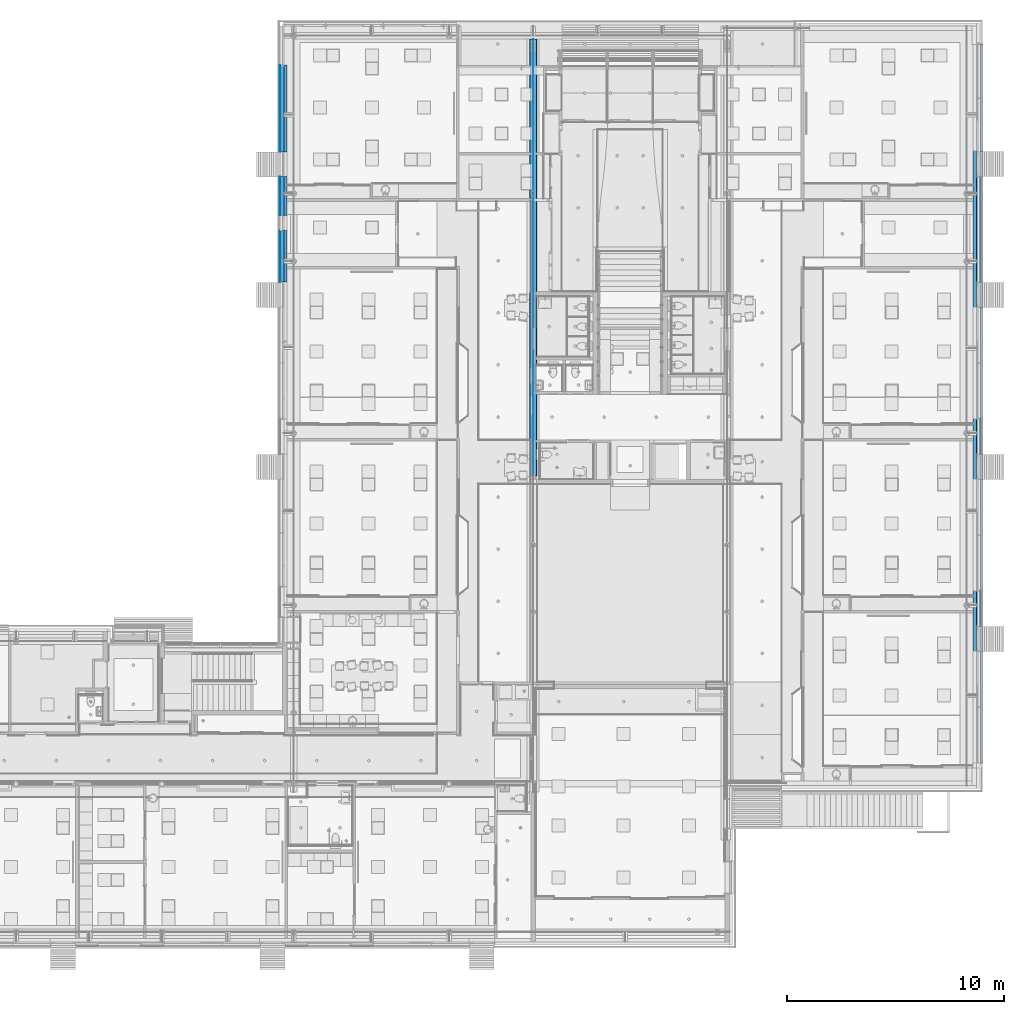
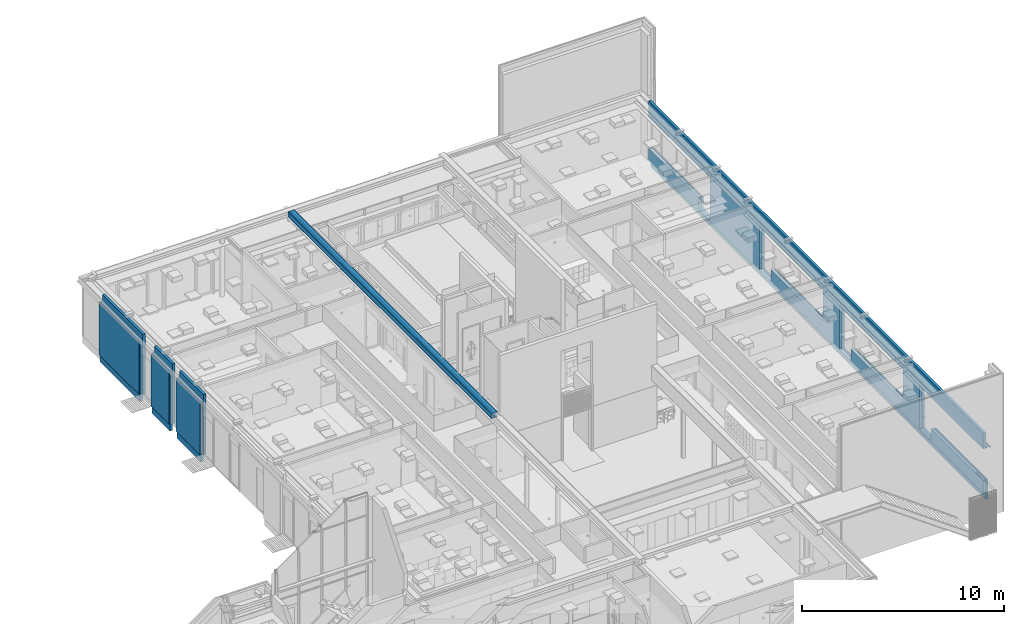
# One storey, part 122 of 347: 16 building element parts, 8 openings, 5 elements without a shape of their own.
"""IFC2X3 building model written with IfcOpenShell, lengths in millimetres."""

from ifc_helpers import new_model, entity, si_unit, converted_unit, derived_unit, money_unit, direction, frame, origin_with_axes, place, context, subcontext, project, spatial, faceted_brep, material, type_object, element, aggregate, save


model = new_model("IFC2X3")

# Units and contexts
model_context = context("Model", 3, precision=0.01, world=origin_with_axes(), true_north=direction((0.0, 1.0)))
plan_context = context("Plan", 3, precision=0.01, world=origin_with_axes(), true_north=direction((0.0, 1.0)))
body_context = subcontext(model_context, "Body", "Model", "MODEL_VIEW")
ifc_project = project(units=[si_unit("LENGTHUNIT", "METRE", prefix="MILLI"), si_unit("AREAUNIT", "SQUARE_METRE"), si_unit("VOLUMEUNIT", "CUBIC_METRE"), converted_unit("PLANEANGLEUNIT", "DEGREE", entity("IfcPlaneAngleMeasure", 0.0174532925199), si_unit("PLANEANGLEUNIT", "RADIAN"), dimensions=[0, 0, 0, 0, 0, 0, 0]), money_unit("EUR"), converted_unit("TIMEUNIT", "Year", entity("IfcTimeMeasure", 31556926.0), si_unit("TIMEUNIT", "SECOND"), dimensions=[0, 0, 1, 0, 0, 0, 0]), si_unit("MASSUNIT", "GRAM", prefix="KILO"), si_unit("THERMODYNAMICTEMPERATUREUNIT", "DEGREE_CELSIUS"), si_unit("LUMINOUSINTENSITYUNIT", "LUMEN"), si_unit("ENERGYUNIT", "JOULE", prefix="MEGA"), derived_unit("THERMALCONDUCTANCEUNIT", [(si_unit("POWERUNIT", "WATT"), 1), (si_unit("LENGTHUNIT", "METRE"), -1), (si_unit("THERMODYNAMICTEMPERATUREUNIT", "KELVIN"), -1)]), derived_unit("SPECIFICHEATCAPACITYUNIT", [(si_unit("ENERGYUNIT", "JOULE"), 1), (si_unit("MASSUNIT", "GRAM", prefix="KILO"), -1), (si_unit("THERMODYNAMICTEMPERATUREUNIT", "KELVIN"), -1)]), derived_unit("MASSDENSITYUNIT", [(si_unit("MASSUNIT", "GRAM", prefix="KILO"), 1), (si_unit("VOLUMEUNIT", "CUBIC_METRE"), -1)])], contexts=[model_context, plan_context])

# Site, building, storey
site_placement = place(None, origin_with_axes())
site = spatial("IfcSite", under=ifc_project, at=site_placement, Name="Site", CompositionType="ELEMENT")
building_placement = place(site_placement, origin_with_axes())
building = spatial("IfcBuilding", under=site, at=building_placement, Name="Naam gebouw", CompositionType="ELEMENT")
storey_placement = place(building_placement, origin_with_axes())
storey = spatial("IfcBuildingStorey", under=building, at=storey_placement, Name="begane grond", CompositionType="ELEMENT", Elevation=0.0)

# Beam, building element parts
beam_type = type_object("IfcBeamType", Name="28 SFBHE320B/S355 550 x 340", PredefinedType="BEAM")
beam_placement = place(storey_placement, frame((35605.0, 46436.9999776, 3560.0), z_axis=(0.0, 0.0, 1.0), x_axis=(-1.0, 0.0, 0.0)))
beam = element("IfcBeam", 1, at=beam_placement, inside=storey, type_object=beam_type, Name="28_Balk-x", ObjectType="BEAM")
ifc_material_1 = material(Name="Beton gewapend C vloer")
building_element_part_1_placement = place(beam_placement, origin_with_axes())
building_element_part_1 = element("IfcBuildingElementPart", 2, at=building_element_part_1_placement, material=ifc_material_1, Name="Beton gewapend C vloer", context=body_context, shape_type="Brep", body=[
    faceted_brep([(-170.0, 20117.0000104, 0.0), (-150.000002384, 20117.0000104, 0.0), (-150.000002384, 0.0, 0.0), (-170.0, 0.0, 0.0), (-170.0, 20117.0000104, 320.000002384), (-150.000002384, 20117.0000104, 320.000002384), (-150.000002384, 20117.0000104, 299.500001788), (-5.74999880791, 20117.0000104, 299.500001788), (-5.74999880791, 20117.0000104, 20.500000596), (-150.000002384, 20117.0000104, 20.500000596), (-150.000002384, 0.0, 20.500000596), (-5.74999880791, 0.0, 20.500000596), (-5.74999880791, 0.0, 299.500001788), (-150.000002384, 0.0, 299.500001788), (-150.000002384, 0.0, 320.000002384), (-170.0, 0.0, 320.000002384)], [[[0, 1, 2, 3]], [[0, 4, 5, 6, 7, 8, 9, 1]], [[1, 9, 10, 2]], [[3, 2, 10, 11, 12, 13, 14, 15]], [[4, 0, 3, 15]], [[5, 4, 15, 14]], [[6, 5, 14, 13]], [[7, 6, 13, 12]], [[8, 7, 12, 11]], [[9, 8, 11, 10]]]),
    faceted_brep([(5.7499988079, 20117.0000104, 299.500001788), (5.7499988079, 20117.0000104, 20.500000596), (5.74999880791, 0.0, 20.500000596), (5.74999880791, 0.0, 299.500001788), (150.000002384, 20117.0000104, 299.500001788), (150.000002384, 20117.0000104, 320.000002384), (170.0, 20117.0000104, 320.000002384), (170.0, 20117.0000104, 0.0), (150.000002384, 20117.0000104, 0.0), (150.000002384, 20117.0000104, 20.500000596), (150.000002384, 0.0, 20.500000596), (150.000002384, 0.0, 0.0), (170.0, 0.0, 0.0), (170.0, 0.0, 320.000002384), (150.000002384, 0.0, 320.000002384), (150.000002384, 0.0, 299.500001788)], [[[0, 1, 2, 3]], [[0, 4, 5, 6, 7, 8, 9, 1]], [[1, 9, 10, 2]], [[3, 2, 10, 11, 12, 13, 14, 15]], [[4, 0, 3, 15]], [[5, 4, 15, 14]], [[6, 5, 14, 13]], [[7, 6, 13, 12]], [[8, 7, 12, 11]], [[9, 8, 11, 10]]]),
])
ifc_material_2 = material(Name="Metaal - Staal C")
building_element_part_2_placement = place(beam_placement, origin_with_axes())
building_element_part_2 = element("IfcBuildingElementPart", 3, at=building_element_part_2_placement, material=ifc_material_2, Name="Metaal - Staal C", context=body_context, shape_type="Brep", body=[
    faceted_brep([(-150.0, 20117.0000104, 0.0), (150.0, 20117.0000104, 0.0), (150.0, 0.0, 0.0), (-150.0, 0.0, 0.0), (-150.0, 20117.0000104, 20.5), (150.0, 20117.0000104, 20.5), (150.0, 0.0, 20.5), (-150.0, 0.0, 20.5)], [[[0, 1, 2, 3]], [[0, 4, 5, 1]], [[1, 5, 6, 2]], [[3, 2, 6, 7]], [[4, 0, 3, 7]], [[5, 4, 7, 6]]]),
])
building_element_part_3_placement = place(beam_placement, origin_with_axes())
building_element_part_3 = element("IfcBuildingElementPart", 4, at=building_element_part_3_placement, material=ifc_material_2, Name="Metaal - Staal C", context=body_context, shape_type="Brep", body=[
    faceted_brep([(-5.75, 20117.0000104, 299.5), (-5.75, 20117.0000104, 20.5), (-5.75, 0.0, 20.5), (-5.75, 0.0, 299.5), (5.75, 20117.0000104, 299.5), (5.75, 20117.0000104, 20.5), (5.75, 0.0, 20.5), (5.75, 0.0, 299.5)], [[[0, 1, 2, 3]], [[0, 4, 5, 1]], [[1, 5, 6, 2]], [[3, 2, 6, 7]], [[4, 0, 3, 7]], [[5, 4, 7, 6]]]),
])
building_element_part_4_placement = place(beam_placement, origin_with_axes())
building_element_part_4 = element("IfcBuildingElementPart", 5, at=building_element_part_4_placement, material=ifc_material_2, Name="Metaal - Staal C", context=body_context, shape_type="Brep", body=[
    faceted_brep([(-150.0, 20117.0000104, 320.0), (-150.0, 20117.0000104, 299.5), (-150.0, 0.0, 299.5), (-150.0, 0.0, 320.0), (150.0, 20117.0000104, 320.0), (150.0, 20117.0000104, 299.5), (150.0, 0.0, 299.5), (150.0, 0.0, 320.0)], [[[0, 1, 2, 3]], [[0, 4, 5, 1]], [[1, 5, 6, 2]], [[3, 2, 6, 7]], [[4, 0, 3, 7]], [[5, 4, 7, 6]]]),
])
aggregate(beam, [building_element_part_1, building_element_part_2, building_element_part_3, building_element_part_4])

# Wall, building element parts
wall_type_1 = type_object("IfcWallType", Name="22 beg hout (3200+) 350 x 4010", PredefinedType="NOTDEFINED")
wall_1_placement = place(storey_placement, frame((24275.0, 40097.0000187, 0.0), z_axis=(0.0, 0.0, 1.0), x_axis=(0.0, -1.0, 0.0)))
wall_1 = element("IfcWall", 6, at=wall_1_placement, inside=storey, type_object=wall_type_1, Name="21_21 betonwand")
ifc_material_3 = material(Name="Steen - Kalkzandsteen C")
building_element_part_5_placement = place(wall_1_placement, origin_with_axes())
building_element_part_5 = element("IfcBuildingElementPart", 7, at=building_element_part_5_placement, material=ifc_material_3, Name="Steen - Kalkzandsteen C", context=body_context, shape_type="Brep", body=[
    faceted_brep([(1784.50001866, 8.1956450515e-06, -70.0), (0.0, 8.1956450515e-06, -70.0), (0.0, 8.1956450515e-06, 3560.0), (1784.50001866, 8.1956450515e-06, 3560.0), (0.0, -150.0, -70.0), (1784.50001866, -150.0, -70.0), (0.0, -149.999977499, 3200.00001043), (0.0, -149.999977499, 3560.0), (1784.50001866, -149.999977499, 3560.0), (1784.50001866, -149.999977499, 3200.00001043)], [[[0, 1, 2, 3]], [[4, 1, 0, 5]], [[1, 4, 6, 7, 2]], [[2, 7, 8, 3]], [[5, 0, 3, 8, 9]], [[4, 5, 9, 6]], [[7, 6, 9, 8]]]),
])
ifc_material_4 = material(Name="Isolatie - Kunststof hard")
building_element_part_6_placement = place(wall_1_placement, origin_with_axes())
building_element_part_6 = element("IfcBuildingElementPart", 8, at=building_element_part_6_placement, material=ifc_material_4, Name="Isolatie - Kunststof hard", context=body_context, shape_type="Brep", body=[
    faceted_brep([(0.0, -290.0, -450.0), (1784.50001866, -290.0, -450.0), (1784.50001866, -290.000000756, -3.65078798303e-05), (0.0, -290.000000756, -3.65078798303e-05), (0.0, -150.0, -450.0), (1784.50001866, -150.0, -450.0), (1784.50001866, -149.999977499, -79.999987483), (1784.50001866, -150.0, 3200.0), (1784.50001866, -290.0, 3200.0), (0.0, -290.0, 3200.0), (0.0, -150.0, 3200.0), (0.0, -149.999977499, -79.999987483)], [[[0, 1, 2, 3]], [[4, 5, 1, 0]], [[2, 1, 5, 6, 7, 8]], [[3, 2, 8, 9]], [[4, 0, 3, 9, 10, 11]], [[11, 6, 5, 4]], [[10, 7, 6, 11]], [[9, 8, 7, 10]]]),
])
ifc_material_5 = material(Name="24 Hout gevelbekleding Lariks")
building_element_part_7_placement = place(wall_1_placement, origin_with_axes())
building_element_part_7 = element("IfcBuildingElementPart", 9, at=building_element_part_7_placement, material=ifc_material_5, Name="24 Hout gevelbekleding Lariks", context=body_context, shape_type="Brep", body=[
    faceted_brep([(1784.50001866, -349.999974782, 3200.0), (1784.50001866, -325.0, 3200.0), (0.0, -325.0, 3200.0), (0.0, -349.999974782, 3200.0), (1784.50001866, -349.999974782, -1.31956885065e-05), (1784.50001866, -325.0, -1.31956885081e-05), (0.0, -325.0, -1.31956885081e-05), (0.0, -349.999974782, -1.31956885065e-05)], [[[0, 1, 2, 3]], [[0, 4, 5, 1]], [[1, 5, 6, 2]], [[3, 2, 6, 7]], [[4, 0, 3, 7]], [[5, 4, 7, 6]]]),
])
aggregate(wall_1, [building_element_part_5, building_element_part_6, building_element_part_7])

wall_2_placement = place(storey_placement, frame((24275.0, 37612.5, 0.0), z_axis=(0.0, 0.0, 1.0), x_axis=(0.0, -1.0, 0.0)))
wall_2 = element("IfcWall", 10, at=wall_2_placement, inside=storey, type_object=wall_type_1, Name="21_21 betonwand")
building_element_part_8_placement = place(wall_2_placement, origin_with_axes())
building_element_part_8 = element("IfcBuildingElementPart", 11, at=building_element_part_8_placement, material=ifc_material_3, Name="Steen - Kalkzandsteen C", context=body_context, shape_type="Brep", body=[
    faceted_brep([(2375.0, 8.1956450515e-06, -70.0), (0.0, 8.1956450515e-06, -70.0), (0.0, 8.1956450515e-06, 3560.0), (2375.0, 8.1956450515e-06, 3560.0), (0.0, -150.0, -70.0), (2375.0, -150.0, -70.0), (0.0, -149.999977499, 3200.00001043), (0.0, -149.999977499, 3560.0), (2375.0, -149.999977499, 3560.0), (2375.0, -149.999977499, 3200.00001043)], [[[0, 1, 2, 3]], [[4, 1, 0, 5]], [[1, 4, 6, 7, 2]], [[2, 7, 8, 3]], [[5, 0, 3, 8, 9]], [[4, 5, 9, 6]], [[7, 6, 9, 8]]]),
])
building_element_part_9_placement = place(wall_2_placement, origin_with_axes())
building_element_part_9 = element("IfcBuildingElementPart", 12, at=building_element_part_9_placement, material=ifc_material_4, Name="Isolatie - Kunststof hard", context=body_context, shape_type="Brep", body=[
    faceted_brep([(2350.0, -211.999873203, 3200.0), (2375.0, -211.999873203, 3200.0), (2375.0, -150.0, 3200.0), (0.0, -150.0, 3200.0), (0.0, -290.0, 3200.0), (2350.0, -290.0, 3200.0), (2350.0, -211.999873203, 0.0), (2375.0, -211.999873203, 0.0), (2375.0, -290.000000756, 0.0), (2375.0, -290.0, -450.0), (2375.0, -150.0, -450.0), (2375.0, -149.999977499, -79.999987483), (0.0, -149.999977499, -79.999987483), (0.0, -150.0, -450.0), (0.0, -290.0, -450.0), (0.0, -290.000000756, -3.65078798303e-05), (2350.0, -290.000000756, 0.0)], [[[0, 1, 2, 3, 4, 5]], [[1, 0, 6, 7]], [[7, 8, 9, 10, 11, 2, 1]], [[3, 2, 11, 12]], [[13, 14, 15, 4, 3, 12]], [[16, 5, 4, 15]], [[0, 5, 16, 6]], [[8, 7, 6, 16]], [[8, 16, 15, 14, 9]], [[13, 10, 9, 14]], [[12, 11, 10, 13]]]),
])
building_element_part_10_placement = place(wall_2_placement, origin_with_axes())
building_element_part_10 = element("IfcBuildingElementPart", 13, at=building_element_part_10_placement, material=ifc_material_5, Name="24 Hout gevelbekleding Lariks", context=body_context, shape_type="Brep", body=[
    faceted_brep([(0.0, -349.999974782, 3200.0), (2375.0, -349.999974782, 3200.0), (2375.0, -325.0, 3200.0), (0.0, -325.0, 3200.0), (0.0, -349.999974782, -1.31956885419e-05), (2375.0, -349.999974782, -1.31956885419e-05), (2375.0, -325.0, -1.31956885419e-05), (0.0, -325.0, -1.31956885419e-05)], [[[0, 1, 2, 3]], [[4, 5, 1, 0]], [[2, 1, 5, 6]], [[3, 2, 6, 7]], [[4, 0, 3, 7]], [[7, 6, 5, 4]]]),
])
aggregate(wall_2, [building_element_part_8, building_element_part_9, building_element_part_10])

wall_3_placement = place(storey_placement, frame((24275.0, 45235.0, 0.0), z_axis=(0.0, 0.0, 1.0), x_axis=(0.0, -1.0, 0.0)))
wall_3 = element("IfcWall", 14, at=wall_3_placement, inside=storey, type_object=wall_type_1, Name="21_21 betonwand")
building_element_part_11_placement = place(wall_3_placement, origin_with_axes())
building_element_part_11 = element("IfcBuildingElementPart", 15, at=building_element_part_11_placement, material=ifc_material_3, Name="Steen - Kalkzandsteen C", context=body_context, shape_type="Brep", body=[
    faceted_brep([(3987.99998134, 8.1956450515e-06, -70.0), (0.0, 8.1956450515e-06, -70.0), (0.0, 8.1956450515e-06, 3560.0), (3987.99998134, 8.1956450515e-06, 3560.0), (0.0, -150.0, -70.0), (3987.99998134, -150.0, -70.0), (0.0, -149.999977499, 3200.00001043), (0.0, -149.999977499, 3560.0), (3987.99998134, -149.999977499, 3560.0), (3987.99998134, -149.999977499, 3200.00001043)], [[[0, 1, 2, 3]], [[4, 1, 0, 5]], [[1, 4, 6, 7, 2]], [[7, 8, 3, 2]], [[5, 0, 3, 8, 9]], [[4, 5, 9, 6]], [[6, 9, 8, 7]]]),
])
building_element_part_12_placement = place(wall_3_placement, origin_with_axes())
building_element_part_12 = element("IfcBuildingElementPart", 16, at=building_element_part_12_placement, material=ifc_material_4, Name="Isolatie - Kunststof hard", context=body_context, shape_type="Brep", body=[
    faceted_brep([(0.0, -290.0, -450.0), (3987.99998134, -290.0, -450.0), (3987.99998134, -290.000000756, -3.65078798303e-05), (0.0, -290.000000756, -3.65078798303e-05), (0.0, -150.0, -450.0), (3987.99998134, -150.0, -450.0), (3987.99998134, -149.999977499, -79.999987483), (3987.99998134, -150.0, 3200.0), (3987.99998134, -290.0, 3200.0), (0.0, -290.0, 3200.0), (0.0, -150.0, 3200.0), (0.0, -149.999977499, -79.999987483)], [[[0, 1, 2, 3]], [[4, 5, 1, 0]], [[2, 1, 5, 6, 7, 8]], [[3, 2, 8, 9]], [[4, 0, 3, 9, 10, 11]], [[11, 6, 5, 4]], [[10, 7, 6, 11]], [[9, 8, 7, 10]]]),
])
building_element_part_13_placement = place(wall_3_placement, origin_with_axes())
building_element_part_13 = element("IfcBuildingElementPart", 17, at=building_element_part_13_placement, material=ifc_material_5, Name="24 Hout gevelbekleding Lariks", context=body_context, shape_type="Brep", body=[
    faceted_brep([(3987.99998134, -349.999974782, 3200.0), (3987.99998134, -325.0, 3200.0), (0.0, -325.0, 3200.0), (0.0, -349.999974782, 3200.0), (3987.99998134, -349.999974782, -1.31956885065e-05), (3987.99998134, -325.0, -1.31956885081e-05), (0.0, -325.0, -1.31956885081e-05), (0.0, -349.999974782, -1.31956885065e-05)], [[[0, 1, 2, 3]], [[0, 4, 5, 1]], [[1, 5, 6, 2]], [[3, 2, 6, 7]], [[4, 0, 3, 7]], [[5, 4, 7, 6]]]),
])
aggregate(wall_3, [building_element_part_11, building_element_part_12, building_element_part_13])

# Wall, openings, building element parts
wall_type_2 = type_object("IfcWallType", Name="22 beg hout (2600+) borstwering' 430 x 4390", PredefinedType="NOTDEFINED")
wall_4_placement = place(storey_placement, frame((55875.0000543, 13087.5, 0.0), z_axis=(0.0, 0.0, 1.0), x_axis=(0.0, 1.0, 0.0)))
wall_4 = element("IfcWall", 18, at=wall_4_placement, inside=storey, type_object=wall_type_2, Name="21_21 betonwand")
opening_1_placement = place(wall_4_placement, frame((18425.0, -1.32445165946e-08, 700.0), z_axis=(0.0, 0.0, 1.0), x_axis=(1.0, 0.0, 0.0)))
element("IfcOpeningElement", 19, at=opening_1_placement, cuts=wall_4, Name="31_-", context=body_context, shape_type="Brep", body=[
    faceted_brep([(2575.0, -860.000161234, 1900.0), (2575.0, -860.000161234, 0.0), (2575.0, -302.000081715, 0.0), (2575.0, -302.000081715, 1900.0), (-2575.0, -860.000161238, 1900.0), (-2575.0, -860.000161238, 0.0), (-2575.0, -302.000081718, 0.0), (-2575.0, -302.000081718, 1900.0)], [[[0, 1, 2, 3]], [[0, 4, 5, 1]], [[1, 5, 6, 2]], [[3, 2, 6, 7]], [[4, 0, 3, 7]], [[5, 4, 7, 6]]]),
    faceted_brep([(2575.0, 255.999997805, 0.0), (2575.0, 255.999997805, 1900.0), (2575.0, -302.000081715, 1900.0), (2575.0, -302.000081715, 0.0), (-2575.0, 255.999997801, 0.0), (-2575.0, 255.999997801, 1900.0), (-2575.0, -302.000081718, 1900.0), (-2575.0, -302.000081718, 0.0)], [[[0, 1, 2, 3]], [[0, 4, 5, 1]], [[1, 5, 6, 2]], [[3, 2, 6, 7]], [[4, 0, 3, 7]], [[5, 4, 7, 6]]]),
])
opening_2_placement = place(wall_4_placement, frame((21561.5, -1.55040424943e-08, 0.0), z_axis=(0.0, 0.0, 1.0), x_axis=(1.0, 0.0, 0.0)))
element("IfcOpeningElement", 20, at=opening_2_placement, cuts=wall_4, Name="31_-", context=body_context, shape_type="Brep", body=[
    faceted_brep([(588.500000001, -860.000161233, 2600.0), (588.500000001, -860.000161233, 0.0), (588.5, -302.000081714, 0.0), (588.5, -302.000081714, 2600.0), (-588.499999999, -860.000161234, 2600.0), (-588.499999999, -860.000161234, 0.0), (-588.5, -302.000081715, 0.0), (-588.5, -302.000081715, 2600.0)], [[[0, 1, 2, 3]], [[0, 4, 5, 1]], [[1, 5, 6, 2]], [[3, 2, 6, 7]], [[4, 0, 3, 7]], [[5, 4, 7, 6]]]),
    faceted_brep([(588.5, 255.999997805, 0.0), (588.5, 255.999997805, 2600.0), (588.5, -302.000081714, 2600.0), (588.5, -302.000081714, 0.0), (-588.5, 255.999997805, 0.0), (-588.5, 255.999997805, 2600.0), (-588.5, -302.000081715, 2600.0), (-588.5, -302.000081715, 0.0)], [[[0, 1, 2, 3]], [[0, 4, 5, 1]], [[1, 5, 6, 2]], [[3, 2, 6, 7]], [[4, 0, 3, 7]], [[5, 4, 7, 6]]]),
])
opening_3_placement = place(wall_4_placement, frame((2575.0, -1.85451654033e-09, 700.0), z_axis=(0.0, 0.0, 1.0), x_axis=(1.0, 0.0, 0.0)))
element("IfcOpeningElement", 21, at=opening_3_placement, cuts=wall_4, Name="31_-", context=body_context, shape_type="Brep", body=[
    faceted_brep([(2575.0, -860.000161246, 1900.0), (2575.0, -860.000161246, 0.0), (2575.0, -302.000081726, 0.0), (2575.0, -302.000081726, 1900.0), (-2575.0, -860.000161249, 1900.0), (-2575.0, -860.000161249, 0.0), (-2575.0, -302.00008173, 0.0), (-2575.0, -302.00008173, 1900.0)], [[[0, 1, 2, 3]], [[0, 4, 5, 1]], [[1, 5, 6, 2]], [[3, 2, 6, 7]], [[4, 0, 3, 7]], [[5, 4, 7, 6]]]),
    faceted_brep([(2575.0, 255.999997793, 0.0), (2575.0, 255.999997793, 1900.0), (2575.0, -302.000081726, 1900.0), (2575.0, -302.000081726, 0.0), (-2575.0, 255.99999779, 0.0), (-2575.0, 255.99999779, 1900.0), (-2575.0, -302.00008173, 1900.0), (-2575.0, -302.00008173, 0.0)], [[[0, 1, 2, 3]], [[0, 4, 5, 1]], [[1, 5, 6, 2]], [[3, 2, 6, 7]], [[4, 0, 3, 7]], [[5, 4, 7, 6]]]),
])
opening_4_placement = place(wall_4_placement, frame((5725.0, -4.11404244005e-09, 0.0), z_axis=(0.0, 0.0, 1.0), x_axis=(1.0, 0.0, 0.0)))
element("IfcOpeningElement", 22, at=opening_4_placement, cuts=wall_4, Name="31_-", context=body_context, shape_type="Brep", body=[
    faceted_brep([(575.000000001, -860.000161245, 2600.0), (575.000000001, -860.000161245, 0.0), (575.0, -302.000081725, 0.0), (575.0, -302.000081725, 2600.0), (-574.999999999, -860.000161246, 2600.0), (-574.999999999, -860.000161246, 0.0), (-575.0, -302.000081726, 0.0), (-575.0, -302.000081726, 2600.0)], [[[0, 1, 2, 3]], [[0, 4, 5, 1]], [[1, 5, 6, 2]], [[3, 2, 6, 7]], [[4, 0, 3, 7]], [[5, 4, 7, 6]]]),
    faceted_brep([(575.0, 255.999997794, 0.0), (575.0, 255.999997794, 2600.0), (575.0, -302.000081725, 2600.0), (575.0, -302.000081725, 0.0), (-575.0, 255.999997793, 0.0), (-575.0, 255.999997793, 2600.0), (-575.0, -302.000081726, 2600.0), (-575.0, -302.000081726, 0.0)], [[[0, 1, 2, 3]], [[0, 4, 5, 1]], [[1, 5, 6, 2]], [[3, 2, 6, 7]], [[4, 0, 3, 7]], [[5, 4, 7, 6]]]),
])
opening_5_placement = place(wall_4_placement, frame((10500.0000001, -7.54596385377e-09, 700.0), z_axis=(0.0, 0.0, 1.0), x_axis=(1.0, 0.0, 0.0)))
element("IfcOpeningElement", 23, at=opening_5_placement, cuts=wall_4, Name="31_-", context=body_context, shape_type="Brep", body=[
    faceted_brep([(2574.99999985, -860.00016124, 1900.0), (2574.99999985, -860.00016124, 0.0), (2574.99999985, -302.00008172, 0.0), (2574.99999985, -302.00008172, 1900.0), (-2574.99999985, -860.000161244, 1900.0), (-2574.99999985, -860.000161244, 0.0), (-2574.99999985, -302.000081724, 0.0), (-2574.99999985, -302.000081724, 1900.0)], [[[0, 1, 2, 3]], [[0, 4, 5, 1]], [[1, 5, 6, 2]], [[3, 2, 6, 7]], [[4, 0, 3, 7]], [[5, 4, 7, 6]]]),
    faceted_brep([(2574.99999985, 255.999997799, 0.0), (2574.99999985, 255.999997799, 1900.0), (2574.99999985, -302.00008172, 1900.0), (2574.99999985, -302.00008172, 0.0), (-2574.99999985, 255.999997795, 0.0), (-2574.99999985, 255.999997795, 1900.0), (-2574.99999985, -302.000081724, 1900.0), (-2574.99999985, -302.000081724, 0.0)], [[[0, 1, 2, 3]], [[0, 4, 5, 1]], [[1, 5, 6, 2]], [[3, 2, 6, 7]], [[4, 0, 3, 7]], [[5, 4, 7, 6]]]),
])
opening_6_placement = place(wall_4_placement, frame((13650.0, -9.81259518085e-09, 0.0), z_axis=(0.0, 0.0, 1.0), x_axis=(1.0, 0.0, 0.0)))
element("IfcOpeningElement", 24, at=opening_6_placement, cuts=wall_4, Name="31_-", context=body_context, shape_type="Brep", body=[
    faceted_brep([(575.000000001, -860.000161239, 2600.0), (575.000000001, -860.000161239, 0.0), (575.0, -302.00008172, 0.0), (575.0, -302.00008172, 2600.0), (-574.999999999, -860.00016124, 2600.0), (-574.999999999, -860.00016124, 0.0), (-575.0, -302.00008172, 0.0), (-575.0, -302.00008172, 2600.0)], [[[0, 1, 2, 3]], [[0, 4, 5, 1]], [[1, 5, 6, 2]], [[3, 2, 6, 7]], [[4, 0, 3, 7]], [[5, 4, 7, 6]]]),
    faceted_brep([(575.0, 255.9999978, 0.0), (575.0, 255.9999978, 2600.0), (575.0, -302.00008172, 2600.0), (575.0, -302.00008172, 0.0), (-575.0, 255.999997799, 0.0), (-575.0, 255.999997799, 2600.0), (-575.0, -302.00008172, 2600.0), (-575.0, -302.00008172, 0.0)], [[[0, 1, 2, 3]], [[0, 4, 5, 1]], [[1, 5, 6, 2]], [[3, 2, 6, 7]], [[4, 0, 3, 7]], [[5, 4, 7, 6]]]),
])
opening_7_placement = place(wall_4_placement, frame((30648.0000188, -2.20339302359e-08, 700.0), z_axis=(0.0, 0.0, 1.0), x_axis=(1.0, 0.0, 0.0)))
element("IfcOpeningElement", 25, at=opening_7_placement, cuts=wall_4, Name="31_-", context=body_context, shape_type="Brep", body=[
    faceted_brep([(2461.50000018, -860.000161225, 1900.0), (2461.50000018, -860.000161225, 0.0), (2461.50000018, -302.000081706, 0.0), (2461.50000018, -302.000081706, 1900.0), (-2461.50000018, -860.000161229, 1900.0), (-2461.50000018, -860.000161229, 0.0), (-2461.50000018, -302.00008171, 0.0), (-2461.50000018, -302.00008171, 1900.0)], [[[0, 1, 2, 3]], [[0, 4, 5, 1]], [[1, 5, 6, 2]], [[3, 2, 6, 7]], [[4, 0, 3, 7]], [[5, 4, 7, 6]]]),
    faceted_brep([(2461.50000018, 255.999997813, 0.0), (2461.50000018, 255.999997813, 1900.0), (2461.50000018, -302.000081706, 1900.0), (2461.50000018, -302.000081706, 0.0), (-2461.50000018, 255.99999781, 0.0), (-2461.50000018, 255.99999781, 1900.0), (-2461.50000018, -302.00008171, 1900.0), (-2461.50000018, -302.00008171, 0.0)], [[[0, 1, 2, 3]], [[0, 4, 5, 1]], [[1, 5, 6, 2]], [[3, 2, 6, 7]], [[4, 0, 3, 7]], [[5, 4, 7, 6]]]),
])
opening_8_placement = place(wall_4_placement, frame((27598.0000187, -1.98383531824e-08, 0.0), z_axis=(0.0, 0.0, 1.0), x_axis=(1.0, 0.0, 0.0)))
element("IfcOpeningElement", 26, at=opening_8_placement, cuts=wall_4, Name="31_-", context=body_context, shape_type="Brep", body=[
    faceted_brep([(588.49999999, -860.000161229, 2600.0), (588.49999999, -860.000161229, 0.0), (588.499999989, -302.00008171, 0.0), (588.499999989, -302.00008171, 2600.0), (-588.499999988, -860.00016123, 2600.0), (-588.499999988, -860.00016123, 0.0), (-588.499999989, -302.00008171, 0.0), (-588.499999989, -302.00008171, 2600.0)], [[[0, 1, 2, 3]], [[0, 4, 5, 1]], [[1, 5, 6, 2]], [[3, 2, 6, 7]], [[4, 0, 3, 7]], [[5, 4, 7, 6]]]),
    faceted_brep([(588.499999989, 255.99999781, 0.0), (588.499999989, 255.99999781, 2600.0), (588.499999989, -302.00008171, 2600.0), (588.499999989, -302.00008171, 0.0), (-588.499999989, 255.999997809, 0.0), (-588.499999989, 255.999997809, 2600.0), (-588.499999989, -302.00008171, 2600.0), (-588.499999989, -302.00008171, 0.0)], [[[0, 1, 2, 3]], [[0, 4, 5, 1]], [[1, 5, 6, 2]], [[3, 2, 6, 7]], [[4, 0, 3, 7]], [[5, 4, 7, 6]]]),
])
building_element_part_14_placement = place(wall_4_placement, origin_with_axes())
building_element_part_14 = element("IfcBuildingElementPart", 27, at=building_element_part_14_placement, material=ifc_material_3, Name="Steen - Kalkzandsteen C", context=body_context, shape_type="Brep", body=[
    faceted_brep([(33099.5000219, -149.999923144, -70.0), (33099.5000219, -149.999941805, 700.0), (28186.5000187, -149.999932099, 700.0), (28186.5000187, -149.999986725, 0.0), (27009.5000187, -149.999986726, 0.0), (27009.5000187, -149.999986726, 2600.0), (33099.5000219, -150.000011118, 2600.0), (33099.5000219, -149.999945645, 3560.0), (1.06581410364e-10, -149.999945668, 3560.0), (1.03028696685e-10, -149.999941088, 2600.0), (6300.0, -149.999923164, 2600.0), (6300.0, -149.999923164, 0.0), (5150.0, -149.999923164, 0.0), (5150.0, -149.999932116, 700.0), (1.06581410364e-10, -149.999932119, 700.0), (1.06581410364e-10, -149.999923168, -70.0), (15850.0, -149.999932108, 700.0), (15850.0, -149.999932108, 720.0), (15850.0, -149.999945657, 2600.0), (22150.0, -149.999976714, 2600.0), (22150.0, -149.999976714, 0.0), (20973.0, -149.999976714, 0.0), (20973.0, -149.999932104, 700.0), (13075.0, -149.999941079, 0.0), (13075.0, -149.99993211, 700.0), (7925.0, -149.999932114, 700.0), (7925.00000029, -149.999932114, 720.0), (7925.00000029, -149.999923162, 2600.0), (14225.0, -149.999941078, 2600.0), (14225.0, -149.999941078, 0.0), (33099.5000219, 3.99148234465e-05, 700.0), (33099.5000219, -2.18668816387e-06, -70.0), (28186.5000187, 3.99112920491e-05, 700.0), (28186.5000187, 3.99112920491e-05, 0.0), (27009.5000187, 3.99104465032e-05, 0.0), (27009.5000187, 3.99104465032e-05, 2600.0), (33099.5000219, -2.1866952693e-06, 2600.0), (33099.5000219, -2.1866952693e-06, 3560.0), (0.0, 2.05294981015e-06, 3560.0), (0.0, 1.4843287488e-05, 2600.0), (6300.0, -2.20595808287e-06, 2600.0), (6300.0, -2.20595808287e-06, 0.0), (5150.0, -2.20678941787e-06, 0.0), (5150.0, 3.98947292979e-05, 700.0), (0.0, 3.98910273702e-05, 700.0), (0.0, -1.6707275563e-06, -70.0), (15850.0, 3.99024244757e-05, 700.0), (15850.0, 3.99024244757e-05, 720.0), (15850.0, 2.06434691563e-06, 2600.0), (22150.0, 3.99069506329e-05, 2600.0), (22150.0, 3.99069506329e-05, 0.0), (20973.0, 3.99061050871e-05, 0.0), (20973.0, 3.99061050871e-05, 700.0), (13075.0, 3.99004278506e-05, 0.0), (13075.0, 3.99004278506e-05, 700.0), (7925.0, 3.9896725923e-05, 700.0), (7925.00000029, 3.9896725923e-05, 720.0), (7925.00000029, -2.20479279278e-06, 2600.0), (14225.0, 3.99012520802e-05, 2600.0), (14225.0, 3.99012520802e-05, 0.0)], [[[0, 1, 2, 3, 4, 5, 6, 7, 8, 9, 10, 11, 12, 13, 14, 15], [16, 17, 18, 19, 20, 21, 22], [23, 24, 25, 26, 27, 28, 29]], [[30, 1, 0, 31]], [[1, 30, 32, 2]], [[33, 3, 2, 32]], [[34, 4, 3, 33]], [[35, 5, 4, 34]], [[6, 5, 35, 36]], [[6, 36, 37, 7]], [[38, 8, 7, 37]], [[39, 9, 8, 38]], [[39, 40, 10, 9]], [[41, 11, 10, 40]], [[42, 12, 11, 41]], [[42, 43, 13, 12]], [[14, 13, 43, 44]], [[44, 45, 15, 14]], [[31, 0, 15, 45]], [[16, 46, 47, 17]], [[47, 48, 18, 17]], [[48, 49, 19, 18]], [[19, 49, 50, 20]], [[20, 50, 51, 21]], [[22, 21, 51, 52]], [[52, 46, 16, 22]], [[24, 23, 53, 54]], [[54, 55, 25, 24]], [[25, 55, 56, 26]], [[56, 57, 27, 26]], [[28, 27, 57, 58]], [[28, 58, 59, 29]], [[29, 59, 53, 23]], [[30, 31, 45, 44, 43, 42, 41, 40, 39, 38, 37, 36, 35, 34, 33, 32], [47, 46, 52, 51, 50, 49, 48], [58, 57, 56, 55, 54, 53, 59]]]),
])
building_element_part_15_placement = place(wall_4_placement, origin_with_axes())
building_element_part_15 = element("IfcBuildingElementPart", 28, at=building_element_part_15_placement, material=ifc_material_4, Name="Isolatie - Kunststof hard", context=body_context, shape_type="Brep", body=[
    faceted_brep([(33099.5000219, -290.0, -510.0), (33099.5000219, -289.999992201, 650.0), (33109.5000118, -289.9999961, 650.0), (33109.5000118, -289.99997909, 655.000016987), (28186.5000187, -289.999979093, 655.000016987), (28186.5000187, -289.999979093, 0.0), (27009.5000187, -289.999979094, 0.0), (27009.5000187, -289.999979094, 655.000016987), (22150.0, -289.999979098, 655.000016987), (22150.0, -289.999979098, 0.0), (20973.0, -289.999979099, 0.0), (20973.0, -289.999979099, 655.000016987), (14225.0, -289.999979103, 655.000016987), (14225.0, -289.999979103, 0.0), (13075.0, -289.999979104, 0.0), (13075.0, -289.999979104, 655.000016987), (6300.0, -289.999979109, 655.000016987), (6300.0, -289.999979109, 0.0), (5150.0, -289.99997911, 0.0), (5150.0, -289.99997911, 655.000016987), (2.0783375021e-10, -289.999979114, 655.000016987), (2.0783375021e-10, -289.999979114, -510.0), (33099.5000219, -150.0, -510.0), (33099.5000219, -150.000028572, -80.0000207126), (33099.5000219, -150.000080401, 700.0), (33099.5000219, -209.999992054, 700.0), (33099.5000219, -209.999971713, 697.961793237), (33099.5000219, -209.999992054, 655.000016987), (33099.5000219, -222.00008173, 655.000016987), (33099.5000219, -222.00008173, 650.0), (33109.5000118, -222.00008173, 650.0), (33109.5000118, -221.999932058, 655.000016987), (28186.5000187, -209.999992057, 655.000016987), (28186.5000187, -149.999976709, 0.0), (28186.5000187, -209.999971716, 697.961793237), (28186.5000187, -209.999992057, 700.0), (28186.5000187, -149.999976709, 700.0), (27009.5000187, -149.99997671, 0.0), (27009.5000187, -149.99997671, 2600.0), (27009.5000187, -289.999979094, 2600.0), (27009.5000187, -289.999979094, 700.000000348), (27009.5000187, -209.999992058, 700.000000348), (27009.5000187, -209.999971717, 697.961793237), (27009.5000187, -209.999992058, 655.000016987), (22150.0, -209.999992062, 655.000016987), (22150.0, -209.999992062, 700.000001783), (22150.0, -289.999979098, 700.000001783), (22150.0, -289.999979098, 2600.0), (22150.0, -149.999971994, 2600.0), (22150.0, -149.999971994, 0.0), (22150.0, -209.99997172, 697.961793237), (20973.0, -149.999971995, 0.0), (20973.0, -149.999976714, 700.0), (20973.0, -209.999992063, 700.0), (20973.0, -209.999971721, 697.961793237), (20973.0, -209.999992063, 655.000016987), (14225.0, -209.999992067, 655.000016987), (14225.0, -149.999972, 2600.0), (14225.0, -149.999972, 0.0), (14225.0, -209.999971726, 697.961793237), (14225.0, -209.999992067, 700.0), (14225.0, -289.999979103, 700.0), (14225.0, -289.999979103, 2600.0), (13075.0, -149.999972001, 0.0), (13075.0, -209.999992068, 655.000016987), (13075.0, -149.999972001, 700.0), (13075.0, -209.999992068, 700.0), (13075.0, -209.999971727, 697.961793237), (6300.0, -209.999992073, 655.000016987), (6300.0, -209.999971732, 697.961793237), (6300.0, -209.999992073, 700.0), (6300.0, -289.999979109, 700.0), (6300.0, -289.999979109, 2600.0), (6300.0, -149.999972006, 2600.0), (6300.0, -149.999972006, 0.0), (5150.0, -149.999972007, 0.0), (5150.0, -149.999972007, 700.0), (5150.0, -209.999992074, 700.0), (5150.0, -209.999971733, 697.961793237), (5150.0, -209.999992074, 655.000016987), (1.50990331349e-10, -209.999992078, 655.000016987), (1.4743761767e-10, -209.999992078, 700.0), (1.03028696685e-10, -149.999975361, 700.0), (1.06581410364e-10, -149.999976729, -80.0000207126), (1.06581410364e-10, -149.999985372, -510.0), (1.50990331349e-10, -209.999971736, 697.961793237), (1.03028696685e-10, -149.999972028, 2600.0), (1.06581410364e-10, -149.99997201, 2610.0), (33109.5000189, -149.999971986, 2610.0), (33109.500019, -149.999972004, 2600.0), (15850.0, -149.999976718, 2600.0), (15850.0, -149.999976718, 700.0), (7925.00000029, -149.999972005, 2600.0), (7925.00000029, -149.999972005, 700.0), (33109.500019, -289.999972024, 2600.0), (33109.5000189, -289.999971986, 2610.0), (2.0783375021e-10, -289.99997201, 2610.0), (2.04281036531e-10, -289.999972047, 2600.0), (7925.00000029, -289.999979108, 700.0), (7925.00000029, -289.999979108, 2600.0), (15850.0, -289.999979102, 700.0), (15850.0, -289.999979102, 2600.0), (15850.0, -209.999992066, 700.0), (7925.00000029, -209.999992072, 700.0)], [[[0, 1, 2, 3, 4, 5, 6, 7, 8, 9, 10, 11, 12, 13, 14, 15, 16, 17, 18, 19, 20, 21]], [[1, 0, 22, 23, 24, 25, 26, 27, 28, 29]], [[30, 2, 1, 29]], [[30, 31, 3, 2]], [[28, 27, 32, 4, 3, 31]], [[33, 5, 4, 32, 34, 35, 36]], [[37, 6, 5, 33]], [[38, 39, 40, 41, 42, 43, 7, 6, 37]], [[8, 7, 43, 44]], [[45, 46, 47, 48, 49, 9, 8, 44, 50]], [[9, 49, 51, 10]], [[10, 51, 52, 53, 54, 55, 11]], [[12, 11, 55, 56]], [[57, 58, 13, 12, 56, 59, 60, 61, 62]], [[13, 58, 63, 14]], [[64, 15, 14, 63, 65, 66, 67]], [[64, 68, 16, 15]], [[16, 68, 69, 70, 71, 72, 73, 74, 17]], [[75, 18, 17, 74]], [[19, 18, 75, 76, 77, 78, 79]], [[20, 19, 79, 80]], [[81, 82, 83, 84, 21, 20, 80, 85]], [[22, 0, 21, 84]], [[23, 22, 84, 83]], [[24, 23, 83, 82, 76, 75, 74, 73, 86, 87, 88, 89, 38, 37, 33, 36], [49, 48, 90, 91, 52, 51], [58, 57, 92, 93, 65, 63]], [[25, 24, 36, 35]], [[26, 25, 35, 34]], [[27, 26, 34, 32]], [[28, 31, 30, 29]], [[94, 39, 38, 89]], [[46, 40, 39, 94, 95, 96, 97, 72, 71, 98, 99, 62, 61, 100, 101, 47]], [[45, 41, 40, 46]], [[50, 42, 41, 45]], [[44, 43, 42, 50]], [[90, 48, 47, 101]], [[52, 91, 102, 53]], [[53, 102, 60, 59, 54]], [[56, 55, 54, 59]], [[60, 102, 100, 61]], [[62, 99, 92, 57]], [[65, 93, 103, 66]], [[70, 69, 67, 66, 103]], [[67, 69, 68, 64]], [[71, 70, 103, 98]], [[86, 73, 72, 97]], [[81, 77, 76, 82]], [[85, 78, 77, 81]], [[80, 79, 78, 85]], [[86, 97, 96, 87]], [[88, 87, 96, 95]], [[94, 89, 88, 95]], [[91, 90, 101, 100, 102]], [[99, 98, 103, 93, 92]]]),
])
ifc_material_6 = material(Name="Steen - Baksteen")
building_element_part_16_placement = place(wall_4_placement, origin_with_axes())
building_element_part_16 = element("IfcBuildingElementPart", 29, at=building_element_part_16_placement, material=ifc_material_6, Name="Steen - Baksteen", context=body_context, shape_type="Brep", body=[
    faceted_brep([(33109.5000118, -360.000022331, 2599.99997855), (33109.5000189, -360.000033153, 2610.0), (33109.5000189, -430.000053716, 2610.0), (33109.5000118, -430.000081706, 2599.99997855), (2.57571741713e-10, -360.000022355, 2599.99997855), (2.57571741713e-10, -360.000033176, 2610.0), (3.09086090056e-10, -430.00005374, 2610.0), (3.09086090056e-10, -430.00008173, 2599.99997855)], [[[0, 1, 2, 3]], [[4, 5, 1, 0]], [[5, 6, 2, 1]], [[3, 2, 6, 7]], [[7, 4, 0, 3]], [[7, 6, 5, 4]]]),
])
aggregate(wall_4, [building_element_part_14, building_element_part_15, building_element_part_16])

save(model, "model.ifc")
